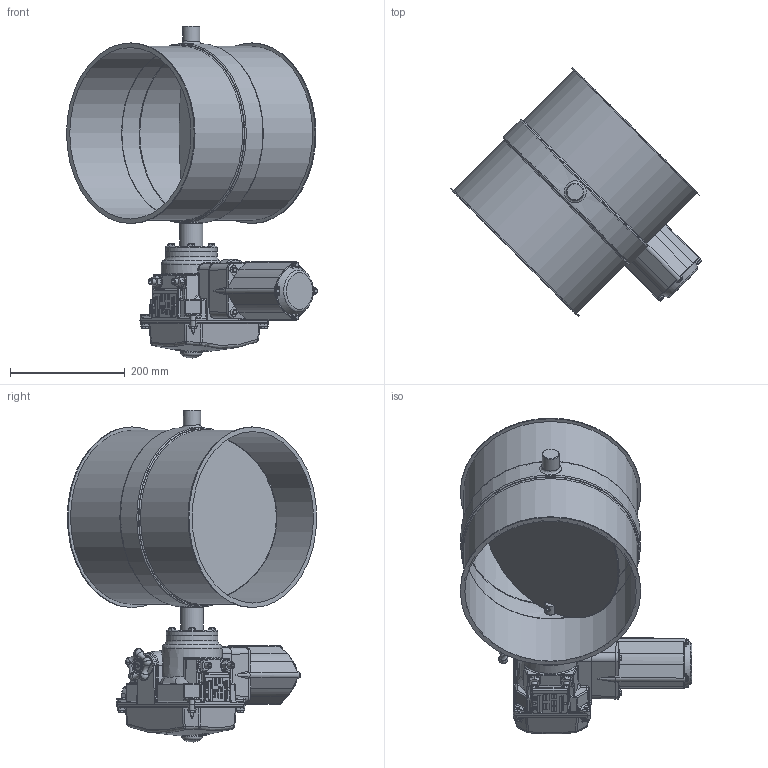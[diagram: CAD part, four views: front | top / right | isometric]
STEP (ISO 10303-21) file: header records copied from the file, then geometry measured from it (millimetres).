
FILE_DESCRIPTION((''),'2;1');
FILE_NAME('U:\Wolfgang\Marcel-3D\fertig\Kapitel 8\3021216.stp','2012-01-13T11:16:59',('iwienholt'),(''),'Autodesk Inventor 2010','Autodesk Inventor 2010','');
FILE_SCHEMA(('AUTOMOTIVE_DESIGN { 1 0 10303 214 1 1 1 1 }'));
Length unit declared in the file: millimetre
Products named in the file (9): 3021216; Bolzen D20; Scheibe300b; DIN 6912 M6 x 16; 3021210-1; D20 Antrieb LE-10; DIN EN ISO 4018 M6x25; LEB100cc; BuchseD20 90-50
Assembly tree (13 placements, depth 3):
  3021216
    Bolzen D20  x2
    Scheibe300b
    DIN 6912 M6 x 16  x2
    3021210-1
    D20 Antrieb LE-10
      DIN EN ISO 4018 M6x25  x4
      LEB100cc
      BuchseD20 90-50
Bounding box: 437.53 x 434.88 x 578.82 mm (x, y, z)
Volume: 5523397.6 mm3; surface area: 1111345.3 mm2
Topology: 12 solids, 12 shells, 1517 faces, 3818 edges, 2400 vertices
Faces by surface type: plane 762, cylinder 296, bspline 239, cone 89, torus 86, sphere 45
Full cylindrical faces by diameter (mm): 3 x2, 5 x4, 5.1 x8, 6 x14, 6.9 x8, 10 x6, 15 x1, 16 x1, 17 x1, 18.6 x2, 20 x6, 20.5 x1, 30 x2, 35 x1, 40 x2, 42 x1, 90 x1, 299 x3, 300 x1, 303 x2, 308 x1, 309 x1, 313 x1, 315 x2
Entity records: 52600 total; most frequent: CARTESIAN_POINT 19687, ORIENTED_EDGE 6776, DIRECTION 5930, EDGE_CURVE 3388, VERTEX_POINT 2239, AXIS2_PLACEMENT_3D 2085, VECTOR 1760, LINE 1760
